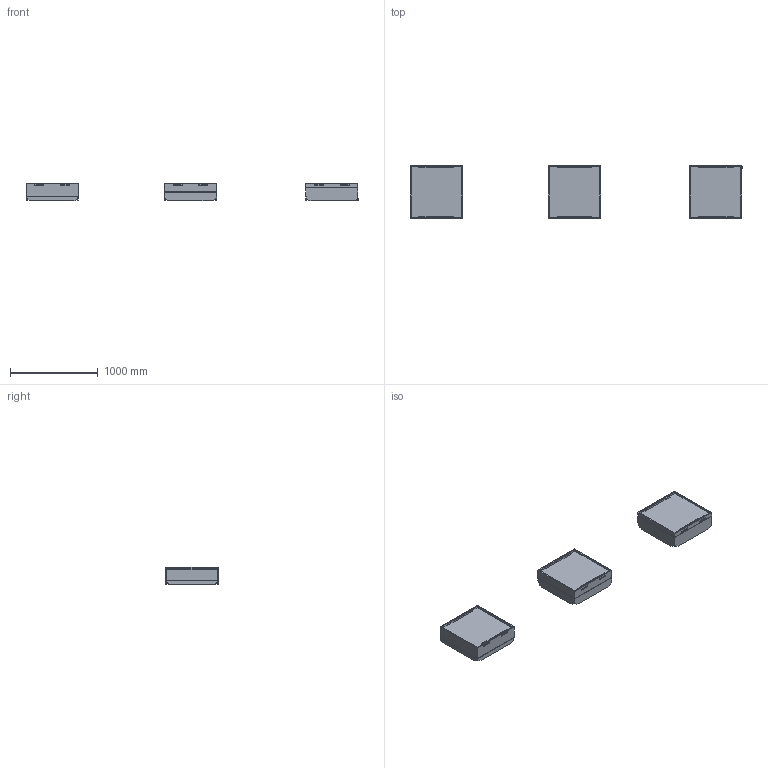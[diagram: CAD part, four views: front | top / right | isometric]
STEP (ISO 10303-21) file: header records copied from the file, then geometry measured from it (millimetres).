
FILE_DESCRIPTION(/* description */ (''),/* implementation_level */ '2;1');
FILE_NAME(/* name */ 'Coffa_Profile_7',/* time_stamp */ '2026-07-17T11:37:47-05:00',/* author */ (''),/* organization */ (''),/* preprocessor_version */ 'ST-DEVELOPER v19.2',/* originating_system */ 'Rhino 8.32',/* authorisation */ '');
FILE_SCHEMA (('CONFIG_CONTROL_DESIGN'));
Length unit declared in the file: inch
Products named in the file (1): Document
Bounding box: 3786.87 x 596.9 x 203.2 mm (x, y, z)
Volume: 29276548.3 mm3; surface area: 5362333.3 mm2
Topology: 21 solids, 21 shells, 306 faces, 807 edges, 540 vertices
Faces by surface type: plane 282, cylinder 24
Entity records: 9190 total; most frequent: CARTESIAN_POINT 3272, ORIENTED_EDGE 1584, EDGE_CURVE 792, B_SPLINE_CURVE_WITH_KNOTS 741, VERTEX_POINT 528, DIRECTION 411, AXIS2_PLACEMENT_3D 357, EDGE_LOOP 330
